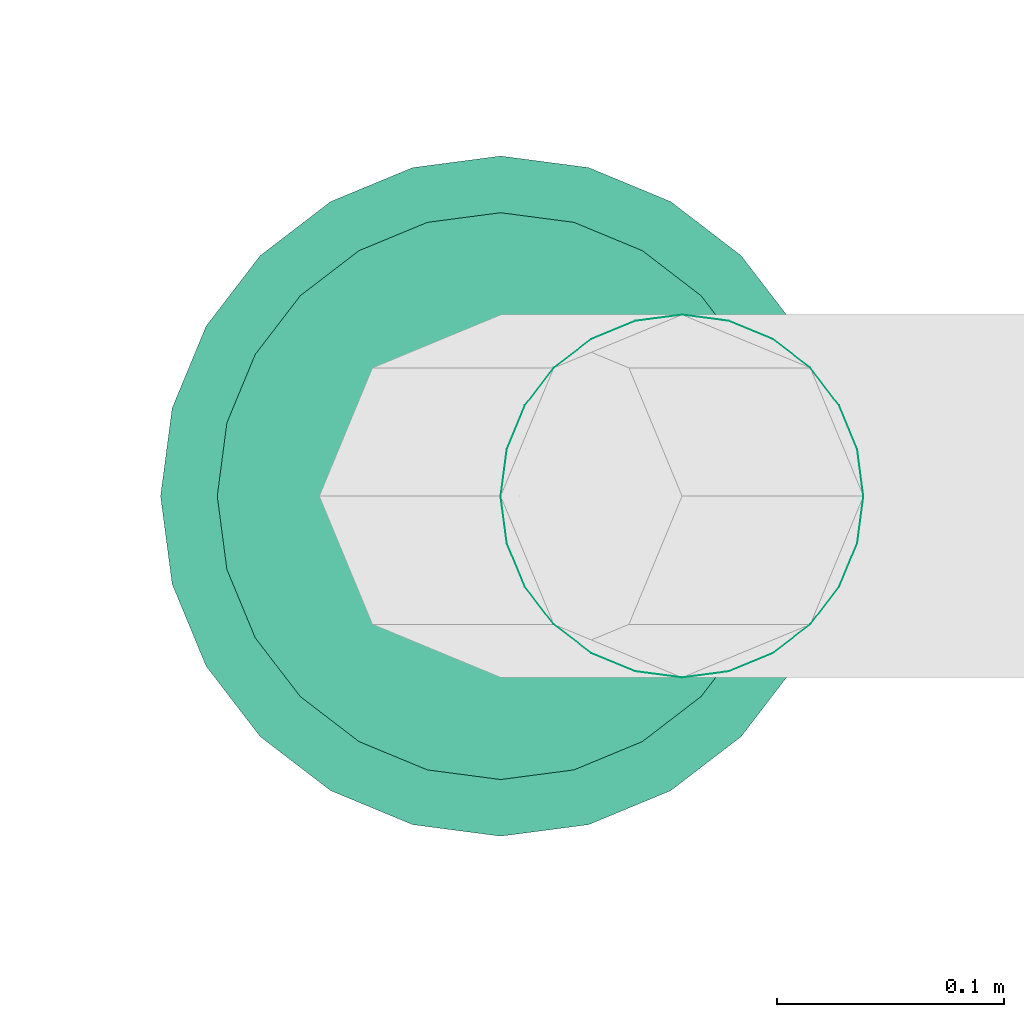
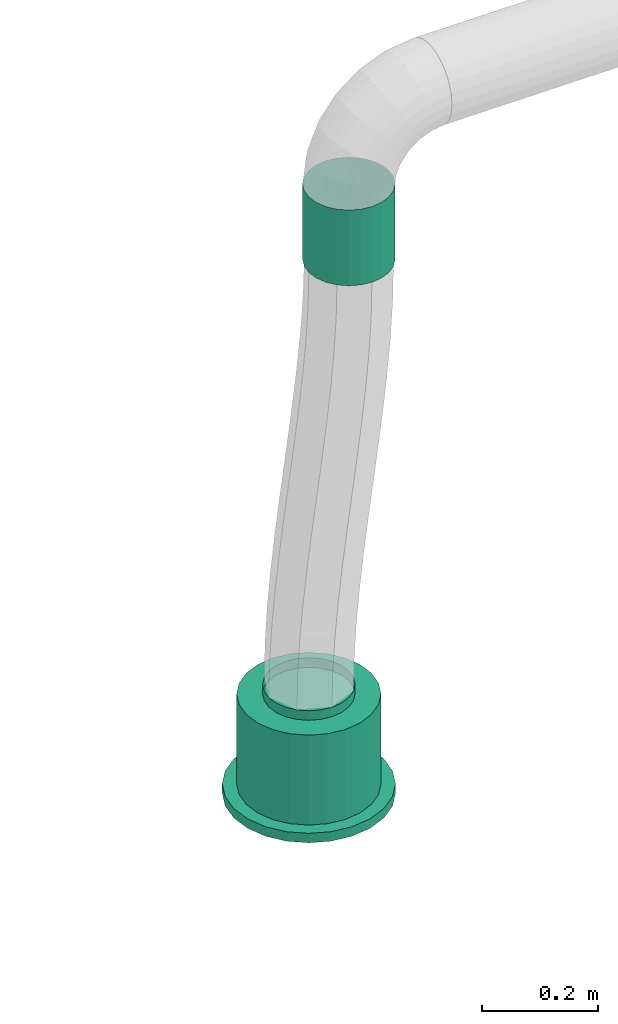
# One storey, part 32 of 374: 1 flow segment, 1 flow terminal.
"""IFC2X3 building model written with IfcOpenShell, lengths in metres."""

from ifc_helpers import new_model, si_unit, direction, origin, place, context, subcontext, project, spatial, open_shell, surface_model, source, transform, mapped, element, save


model = new_model("IFC2X3")

# Units and contexts
model_context = context("Model", 3, precision=1e-05, world=origin(), true_north=direction((-0.4480736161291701, 0.8939966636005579)))
body_context = subcontext(model_context, "Body", "Model", "MODEL_VIEW")
ifc_project = project(units=[si_unit("LENGTHUNIT", "METRE"), si_unit("AREAUNIT", "SQUARE_METRE"), si_unit("VOLUMEUNIT", "CUBIC_METRE"), si_unit("PLANEANGLEUNIT", "RADIAN"), si_unit("THERMODYNAMICTEMPERATUREUNIT", "KELVIN"), si_unit("MASSUNIT", "GRAM", prefix="KILO"), si_unit("TIMEUNIT", "SECOND")], contexts=[model_context])

# Site, building, storey
site_placement = place(None, origin())
site = spatial("IfcSite", under=ifc_project, at=site_placement, Name="Site 1", CompositionType="ELEMENT")
building_placement = place(site_placement, origin())
building = spatial("IfcBuilding", under=site, at=building_placement, Name="Undefined", CompositionType="ELEMENT")
storey_placement = place(building_placement, origin())
storey = spatial("IfcBuildingStorey", under=building, at=storey_placement, Name="Rez de chauss\x8ee", CompositionType="ELEMENT", Elevation=0.0)

# Flow terminal
shared_shape_1 = source(origin(), body_context, "Body", "SurfaceModel", [
    surface_model("IfcFaceBasedSurfaceModel", [(0.0, 0.0, 0.0), (0.03915785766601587, 0.0, 0.0), (0.03915785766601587, 0.020000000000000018, 0.0), (3.552713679e-15, 0.020000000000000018, 0.0), (0.07698144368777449, 0.0, -0.010134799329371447), (0.07698144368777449, 0.020000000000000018, -0.010134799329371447), (0.11089314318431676, 0.0, -0.02971372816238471), (0.11089314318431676, 0.020000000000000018, -0.02971372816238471), (0.13858192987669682, 0.0, -0.05740251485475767), (0.13858192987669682, 0.020000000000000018, -0.05740251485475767), (0.15816085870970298, 0.0, -0.09131421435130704), (0.15816085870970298, 0.020000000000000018, -0.09131421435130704), (0.16829565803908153, 0.0, -0.12913780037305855), (0.16829565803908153, 0.020000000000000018, -0.12913780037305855), (0.16829565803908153, 0.0, -0.16829565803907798), (0.16829565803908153, 0.020000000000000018, -0.16829565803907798), (0.15816085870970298, 0.0, -0.20611924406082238), (0.15816085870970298, 0.020000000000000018, -0.20611924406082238), (0.13858192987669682, 0.0, -0.24003094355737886), (0.13858192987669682, 0.020000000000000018, -0.24003094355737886), (0.11089314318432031, 0.0, -0.2677197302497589), (0.11089314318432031, 0.020000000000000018, -0.2677197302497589), (0.07698144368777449, 0.0, -0.2872986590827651), (0.07698144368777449, 0.020000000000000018, -0.2872986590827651), (0.039157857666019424, 0.0, -0.29743345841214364), (0.039157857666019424, 0.020000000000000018, -0.29743345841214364), (3.552713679e-15, 0.0, -0.29743345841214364), (3.552713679e-15, 0.020000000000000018, -0.29743345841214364), (-0.03782358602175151, 0.0, -0.2872986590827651), (-0.03782358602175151, 0.020000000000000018, -0.2872986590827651), (-0.07173528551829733, 0.0, -0.2677197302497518), (-0.07173528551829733, 0.020000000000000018, -0.2677197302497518), (-0.0994240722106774, 0.0, -0.24003094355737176), (-0.0994240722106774, 0.020000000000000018, -0.24003094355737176), (-0.11900300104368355, 0.0, -0.2061192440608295), (-0.11900300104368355, 0.020000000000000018, -0.2061192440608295), (-0.1291378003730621, 0.0, -0.16829565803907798), (-0.1291378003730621, 0.020000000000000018, -0.16829565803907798), (-0.1291378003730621, 0.0, -0.12913780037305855), (-0.1291378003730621, 0.020000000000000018, -0.12913780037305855), (-0.11900300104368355, 0.0, -0.09131421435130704), (-0.11900300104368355, 0.020000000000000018, -0.09131421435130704), (-0.0994240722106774, 0.0, -0.05740251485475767), (-0.0994240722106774, 0.020000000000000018, -0.05740251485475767), (-0.07173528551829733, 0.0, -0.029713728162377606), (-0.07173528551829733, 0.020000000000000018, -0.029713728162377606), (-0.03782358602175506, 0.0, -0.010134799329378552), (-0.03782358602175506, 0.020000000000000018, -0.010134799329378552), (0.019578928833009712, 0.0, -0.14871672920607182), (0.019578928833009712, 0.020000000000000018, -0.14871672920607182), (0.003263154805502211, 0.020000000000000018, -0.02478612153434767), (0.035894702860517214, 0.020000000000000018, -0.02478612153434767), (0.035894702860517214, 0.20999999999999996, -0.02478612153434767), (0.003263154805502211, 0.20999999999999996, -0.02478612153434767), (0.06741435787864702, 0.020000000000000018, -0.033231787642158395), (0.06741435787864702, 0.20999999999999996, -0.033231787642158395), (0.0956741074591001, 0.020000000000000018, -0.04954756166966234), (0.0956741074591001, 0.20999999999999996, -0.04954756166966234), (0.11874809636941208, 0.020000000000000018, -0.07262155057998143), (0.11874809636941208, 0.20999999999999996, -0.07262155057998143), (0.13506387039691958, 0.020000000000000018, -0.10088130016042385), (0.13506387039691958, 0.20999999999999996, -0.10088130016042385), (0.1435095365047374, 0.020000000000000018, -0.13240095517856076), (0.1435095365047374, 0.20999999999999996, -0.13240095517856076), (0.1435095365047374, 0.020000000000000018, -0.16503250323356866), (0.1435095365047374, 0.20999999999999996, -0.16503250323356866), (0.13506387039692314, 0.020000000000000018, -0.19655215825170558), (0.13506387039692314, 0.20999999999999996, -0.19655215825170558), (0.11874809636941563, 0.020000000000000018, -0.2248119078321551), (0.11874809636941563, 0.20999999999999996, -0.2248119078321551), (0.09567410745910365, 0.020000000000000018, -0.24788589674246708), (0.09567410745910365, 0.20999999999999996, -0.24788589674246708), (0.06741435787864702, 0.020000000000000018, -0.26420167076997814), (0.06741435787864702, 0.20999999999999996, -0.26420167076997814), (0.035894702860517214, 0.020000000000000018, -0.27264733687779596), (0.035894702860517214, 0.20999999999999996, -0.27264733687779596), (0.0032631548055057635, 0.020000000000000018, -0.27264733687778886), (0.0032631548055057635, 0.20999999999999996, -0.27264733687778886), (-0.028256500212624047, 0.020000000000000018, -0.26420167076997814), (-0.028256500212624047, 0.20999999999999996, -0.26420167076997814), (-0.05651624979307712, 0.020000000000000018, -0.2478858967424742), (-0.05651624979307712, 0.20999999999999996, -0.2478858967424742), (-0.07959023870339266, 0.020000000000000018, -0.2248119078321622), (-0.07959023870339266, 0.20999999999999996, -0.2248119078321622), (-0.09590601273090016, 0.020000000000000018, -0.19655215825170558), (-0.09590601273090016, 0.20999999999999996, -0.19655215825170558), (-0.10435167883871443, 0.020000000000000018, -0.16503250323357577), (-0.10435167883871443, 0.20999999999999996, -0.16503250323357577), (-0.10435167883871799, 0.020000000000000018, -0.13240095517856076), (-0.10435167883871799, 0.20999999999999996, -0.13240095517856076), (-0.09590601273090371, 0.020000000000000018, -0.10088130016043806), (-0.09590601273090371, 0.20999999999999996, -0.10088130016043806), (-0.07959023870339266, 0.020000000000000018, -0.07262155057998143), (-0.07959023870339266, 0.20999999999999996, -0.07262155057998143), (-0.056516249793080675, 0.020000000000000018, -0.04954756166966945), (-0.056516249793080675, 0.20999999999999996, -0.04954756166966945), (-0.028256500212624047, 0.020000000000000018, -0.033231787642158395), (-0.028256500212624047, 0.20999999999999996, -0.033231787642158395), (0.019578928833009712, 0.20999999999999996, -0.14871672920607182), (0.009136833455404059, 0.20999999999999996, -0.06940114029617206), (0.030021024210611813, 0.20999999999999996, -0.06940114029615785), (0.030021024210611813, 0.22999999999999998, -0.06940114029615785), (0.009136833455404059, 0.22999999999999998, -0.06940114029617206), (0.05019360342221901, 0.20999999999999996, -0.07480636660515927), (0.05019360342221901, 0.22999999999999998, -0.07480636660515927), (0.06827984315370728, 0.20999999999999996, -0.08524846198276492), (0.06827984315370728, 0.22999999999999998, -0.08524846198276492), (0.0830471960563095, 0.20999999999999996, -0.10001581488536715), (0.0830471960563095, 0.22999999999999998, -0.10001581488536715), (0.0934892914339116, 0.20999999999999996, -0.11810205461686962), (0.0934892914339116, 0.22999999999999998, -0.11810205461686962), (0.09889451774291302, 0.20999999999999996, -0.13827463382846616), (0.09889451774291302, 0.22999999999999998, -0.13827463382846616), (0.09889451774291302, 0.20999999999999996, -0.15915882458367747), (0.09889451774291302, 0.22999999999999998, -0.15915882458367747), (0.09348929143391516, 0.20999999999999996, -0.179331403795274), (0.09348929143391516, 0.22999999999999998, -0.179331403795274), (0.0830471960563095, 0.20999999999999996, -0.19741764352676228), (0.0830471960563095, 0.22999999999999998, -0.19741764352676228), (0.06827984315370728, 0.20999999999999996, -0.2121849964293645), (0.06827984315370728, 0.22999999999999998, -0.2121849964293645), (0.05019360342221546, 0.20999999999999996, -0.22262709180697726), (0.05019360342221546, 0.22999999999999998, -0.22262709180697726), (0.030021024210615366, 0.20999999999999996, -0.22803231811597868), (0.030021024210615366, 0.22999999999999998, -0.22803231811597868), (0.009136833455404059, 0.20999999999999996, -0.22803231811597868), (0.009136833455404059, 0.22999999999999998, -0.22803231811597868), (-0.011035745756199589, 0.20999999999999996, -0.22262709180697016), (-0.011035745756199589, 0.22999999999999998, -0.22262709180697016), (-0.0291219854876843, 0.20999999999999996, -0.2121849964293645), (-0.0291219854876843, 0.22999999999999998, -0.2121849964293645), (-0.043889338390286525, 0.20999999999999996, -0.19741764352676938), (-0.043889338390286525, 0.22999999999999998, -0.19741764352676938), (-0.05433143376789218, 0.20999999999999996, -0.17933140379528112), (-0.05433143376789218, 0.22999999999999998, -0.17933140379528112), (-0.05973666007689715, 0.20999999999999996, -0.15915882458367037), (-0.05973666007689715, 0.22999999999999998, -0.15915882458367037), (-0.0597366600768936, 0.20999999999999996, -0.13827463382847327), (-0.0597366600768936, 0.22999999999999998, -0.13827463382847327), (-0.05433143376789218, 0.20999999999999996, -0.11810205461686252), (-0.05433143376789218, 0.22999999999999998, -0.11810205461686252), (-0.043889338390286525, 0.20999999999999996, -0.10001581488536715), (-0.043889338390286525, 0.22999999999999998, -0.10001581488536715), (-0.02912198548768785, 0.20999999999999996, -0.08524846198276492), (-0.02912198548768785, 0.22999999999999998, -0.08524846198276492), (-0.011035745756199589, 0.20999999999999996, -0.07480636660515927), (-0.011035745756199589, 0.22999999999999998, -0.07480636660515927)], [open_shell([[[0, 1, 2, 3]], [[1, 4, 5, 2]], [[4, 6, 7, 5]], [[6, 8, 9, 7]], [[8, 10, 11, 9]], [[10, 12, 13, 11]], [[12, 14, 15, 13]], [[14, 16, 17, 15]], [[16, 18, 19, 17]], [[18, 20, 21, 19]], [[20, 22, 23, 21]], [[22, 24, 25, 23]], [[24, 26, 27, 25]], [[26, 28, 29, 27]], [[28, 30, 31, 29]], [[30, 32, 33, 31]], [[32, 34, 35, 33]], [[34, 36, 37, 35]], [[36, 38, 39, 37]], [[38, 40, 41, 39]], [[40, 42, 43, 41]], [[42, 44, 45, 43]], [[44, 46, 47, 45]], [[46, 0, 3, 47]], [[48, 1, 0]], [[48, 4, 1]], [[48, 6, 4]], [[48, 8, 6]], [[48, 10, 8]], [[48, 12, 10]], [[48, 14, 12]], [[48, 16, 14]], [[48, 18, 16]], [[48, 20, 18]], [[48, 22, 20]], [[48, 24, 22]], [[48, 26, 24]], [[48, 28, 26]], [[48, 30, 28]], [[48, 32, 30]], [[48, 34, 32]], [[48, 36, 34]], [[48, 38, 36]], [[48, 40, 38]], [[48, 42, 40]], [[48, 44, 42]], [[48, 46, 44]], [[48, 0, 46]], [[49, 47, 3]], [[49, 45, 47]], [[49, 43, 45]], [[49, 41, 43]], [[49, 39, 41]], [[49, 37, 39]], [[49, 35, 37]], [[49, 33, 35]], [[49, 31, 33]], [[49, 29, 31]], [[49, 27, 29]], [[49, 25, 27]], [[49, 23, 25]], [[49, 21, 23]], [[49, 19, 21]], [[49, 17, 19]], [[49, 15, 17]], [[49, 13, 15]], [[49, 11, 13]], [[49, 9, 11]], [[49, 7, 9]], [[49, 5, 7]], [[49, 2, 5]], [[49, 3, 2]], [[50, 51, 52, 53]], [[51, 54, 55, 52]], [[54, 56, 57, 55]], [[56, 58, 59, 57]], [[58, 60, 61, 59]], [[60, 62, 63, 61]], [[62, 64, 65, 63]], [[64, 66, 67, 65]], [[66, 68, 69, 67]], [[68, 70, 71, 69]], [[70, 72, 73, 71]], [[72, 74, 75, 73]], [[74, 76, 77, 75]], [[76, 78, 79, 77]], [[78, 80, 81, 79]], [[80, 82, 83, 81]], [[82, 84, 85, 83]], [[84, 86, 87, 85]], [[86, 88, 89, 87]], [[88, 90, 91, 89]], [[90, 92, 93, 91]], [[92, 94, 95, 93]], [[94, 96, 97, 95]], [[96, 50, 53, 97]], [[49, 51, 50]], [[49, 54, 51]], [[49, 56, 54]], [[49, 58, 56]], [[49, 60, 58]], [[49, 62, 60]], [[49, 64, 62]], [[49, 66, 64]], [[49, 68, 66]], [[49, 70, 68]], [[49, 72, 70]], [[49, 74, 72]], [[49, 76, 74]], [[49, 78, 76]], [[49, 80, 78]], [[49, 82, 80]], [[49, 84, 82]], [[49, 86, 84]], [[49, 88, 86]], [[49, 90, 88]], [[49, 92, 90]], [[49, 94, 92]], [[49, 96, 94]], [[49, 50, 96]], [[98, 97, 53]], [[98, 95, 97]], [[98, 93, 95]], [[98, 91, 93]], [[98, 89, 91]], [[98, 87, 89]], [[98, 85, 87]], [[98, 83, 85]], [[98, 81, 83]], [[98, 79, 81]], [[98, 77, 79]], [[98, 75, 77]], [[98, 73, 75]], [[98, 71, 73]], [[98, 69, 71]], [[98, 67, 69]], [[98, 65, 67]], [[98, 63, 65]], [[98, 61, 63]], [[98, 59, 61]], [[98, 57, 59]], [[98, 55, 57]], [[98, 52, 55]], [[98, 53, 52]], [[99, 100, 101, 102]], [[100, 103, 104, 101]], [[103, 105, 106, 104]], [[105, 107, 108, 106]], [[107, 109, 110, 108]], [[109, 111, 112, 110]], [[111, 113, 114, 112]], [[113, 115, 116, 114]], [[115, 117, 118, 116]], [[117, 119, 120, 118]], [[119, 121, 122, 120]], [[121, 123, 124, 122]], [[123, 125, 126, 124]], [[125, 127, 128, 126]], [[127, 129, 130, 128]], [[129, 131, 132, 130]], [[131, 133, 134, 132]], [[133, 135, 136, 134]], [[135, 137, 138, 136]], [[137, 139, 140, 138]], [[139, 141, 142, 140]], [[141, 143, 144, 142]], [[143, 145, 146, 144]], [[145, 99, 102, 146]]])]),
])
flow_terminal_placement = place(storey_placement, origin())
element("IfcFlowTerminal", 1, at=flow_terminal_placement, inside=storey, Name="Air diffuseur - bouche", ObjectType="Air diffuseur - bouche", context=body_context, shape_type="MappedRepresentation", body=[
    mapped(shared_shape_1, transform((3.6792565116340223, 22.029236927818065, 2.38), x_axis=(-0.13052619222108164, 0.9914448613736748, 0.0), y_axis=(0.0, 0.0, 1.0), z_axis=(0.9914448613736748, 0.13052619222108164, 0.0))),
])

# Flow segment
shared_shape_2 = source(origin(), body_context, "Body", "SurfaceModel", [
    surface_model("IfcFaceBasedSurfaceModel", [(0.0, 0.020884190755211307, 0.0), (0.0, 0.0, 0.0), (0.16000000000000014, 0.0, -4.4408921e-16), (0.16000000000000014, 0.0208841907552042, -4.4408921e-16), (0.0, -0.020172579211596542, -0.005405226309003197), (0.16000000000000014, -0.020172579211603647, -0.005405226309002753), (0.0, -0.03825881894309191, -0.015847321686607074), (0.16000000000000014, -0.03825881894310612, -0.015847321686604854), (0.0, -0.05302617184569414, -0.0306146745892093), (0.16000000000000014, -0.05302617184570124, -0.03061467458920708), (0.0, -0.06346826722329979, -0.04870091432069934), (0.16000000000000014, -0.0634682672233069, -0.04870091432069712), (0.0, -0.06887349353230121, -0.06887349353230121), (0.16000000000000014, -0.06887349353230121, -0.06887349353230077), (0.0, -0.06887349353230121, -0.08975768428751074), (0.16000000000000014, -0.06887349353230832, -0.08975768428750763), (0.0, -0.06346826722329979, -0.10993026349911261), (0.16000000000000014, -0.0634682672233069, -0.10993026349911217), (0.0, -0.05302617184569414, -0.12801650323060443), (0.16000000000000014, -0.05302617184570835, -0.1280165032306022), (0.0, -0.038258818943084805, -0.14278385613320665), (0.16000000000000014, -0.03825881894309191, -0.14278385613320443), (0.0, -0.020172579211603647, -0.15322595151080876), (0.16000000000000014, -0.020172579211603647, -0.1532259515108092), (0.0, 7.105427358e-15, -0.15863117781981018), (0.16000000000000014, -7.105427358e-15, -0.15863117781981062), (0.0, 0.020884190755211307, -0.15863117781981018), (0.16000000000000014, 0.0208841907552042, -0.15863117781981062), (0.0, 0.04105676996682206, -0.15322595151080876), (0.16000000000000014, 0.04105676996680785, -0.1532259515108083), (0.0, 0.05914300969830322, -0.1427838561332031), (0.16000000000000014, 0.05914300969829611, -0.14278385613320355), (0.0, 0.07391036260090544, -0.12801650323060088), (0.16000000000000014, 0.07391036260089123, -0.1280165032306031), (0.0, 0.0843524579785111, -0.10993026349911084), (0.16000000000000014, 0.08435245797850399, -0.10993026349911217), (0.0, 0.08975768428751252, -0.08975768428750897), (0.16000000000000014, 0.08975768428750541, -0.08975768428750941), (0.0, 0.08975768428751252, -0.06887349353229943), (0.16000000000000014, 0.08975768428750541, -0.06887349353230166), (0.0, 0.0843524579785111, -0.048700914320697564), (0.16000000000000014, 0.08435245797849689, -0.04870091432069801), (0.0, 0.07391036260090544, -0.030614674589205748), (0.16000000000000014, 0.07391036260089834, -0.03061467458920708), (0.0, 0.05914300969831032, -0.015847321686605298), (0.16000000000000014, 0.05914300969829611, -0.01584732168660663), (0.0, 0.04105676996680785, -0.005405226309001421), (0.16000000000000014, 0.04105676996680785, -0.005405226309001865)], [open_shell([[[0, 1, 2, 3]], [[1, 4, 5, 2]], [[4, 6, 7, 5]], [[6, 8, 9, 7]], [[8, 10, 11, 9]], [[10, 12, 13, 11]], [[12, 14, 15, 13]], [[14, 16, 17, 15]], [[16, 18, 19, 17]], [[18, 20, 21, 19]], [[20, 22, 23, 21]], [[22, 24, 25, 23]], [[24, 26, 27, 25]], [[26, 28, 29, 27]], [[28, 30, 31, 29]], [[30, 32, 33, 31]], [[32, 34, 35, 33]], [[34, 36, 37, 35]], [[36, 38, 39, 37]], [[38, 40, 41, 39]], [[40, 42, 43, 41]], [[42, 44, 45, 43]], [[44, 46, 47, 45]], [[46, 0, 3, 47]]])]),
])
flow_segment_placement = place(storey_placement, origin())
element("IfcFlowSegment", 2, at=flow_segment_placement, inside=storey, Name="Tube", ObjectType="Tube", context=body_context, shape_type="MappedRepresentation", body=[
    mapped(shared_shape_2, transform((3.6865305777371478, 22.049942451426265, 3.4800000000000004), x_axis=(0.0, 0.0, 1.0), y_axis=(0.13052619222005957, -0.9914448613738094, 0.0), z_axis=(0.9914448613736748, 0.13052619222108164, 0.0))),
])

save(model, "model.ifc")
